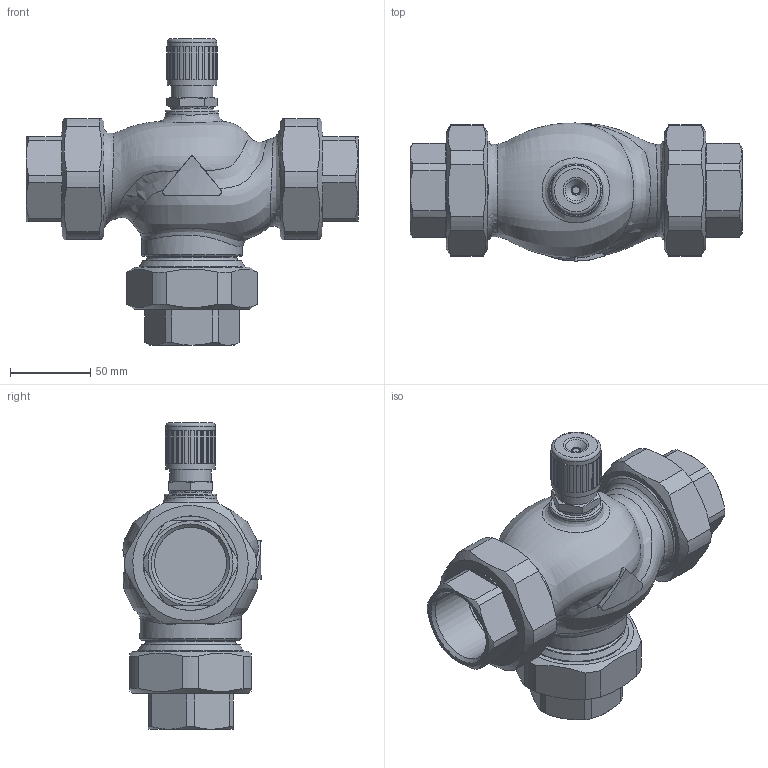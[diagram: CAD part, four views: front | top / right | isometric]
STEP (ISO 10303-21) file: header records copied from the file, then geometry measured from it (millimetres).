
FILE_DESCRIPTION(/* description */ (''),/* implementation_level */ '2;1');
FILE_NAME(/* name */ 'rv111r_dn40_3_T.stp',/* time_stamp */ '2012-01-25T07:28:32+01:00',/* author */ ('KLIMES'),/* organization */ ('LDM'),/* preprocessor_version */ 'ST-DEVELOPER v11',/* originating_system */ 'SIEMENS PLM Software NX 7.0',/* authorisation */ '');
FILE_SCHEMA (('CONFIG_CONTROL_DESIGN'));
Length unit declared in the file: millimetre
Products named in the file (1): klimF827ccan
Bounding box: 207 x 86.15 x 191 mm (x, y, z)
Volume: 930671.8 mm3; surface area: 150283.7 mm2
Topology: 11 solids, 11 shells, 374 faces, 873 edges, 562 vertices
Faces by surface type: plane 199, cone 76, cylinder 58, bspline 26, torus 15
Full cylindrical faces by diameter (mm): 8 x1, 23.4 x1, 24.117 x1, 26 x1, 26.5 x1, 30.8 x1, 33 x1, 44.845 x3, 50 x6, 56 x1, 58.8 x3, 59 x3, 62 x3, 62.6 x3, 62.752 x3, 63 x1, 65.71 x3
Entity records: 16396 total; most frequent: CARTESIAN_POINT 8357, DIRECTION 1632, ORIENTED_EDGE 1532, EDGE_CURVE 766, AXIS2_PLACEMENT_3D 669, VERTEX_POINT 529, EDGE_LOOP 507, ADVANCED_FACE 374
